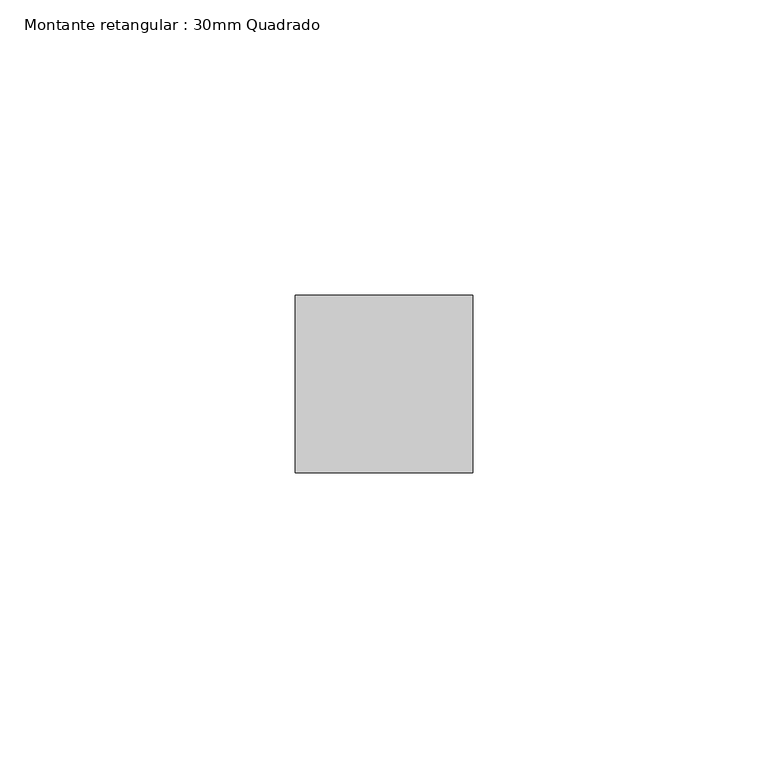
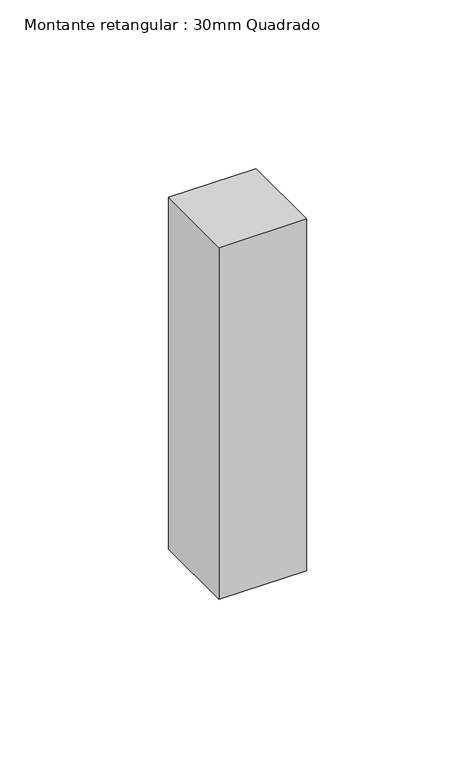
"""IFC4 building model written with IfcOpenShell, lengths in millimetres: member geometry, Montante retangular : 30mm Quadrado."""

from ifc_helpers import new_model, si_unit, frame, origin, place, context, project, spatial, polyline, outline, extrude, source, transform, mapped, element, save


def montante_retangular_30mm_quadrado_ac79c377(model_context):
    return source(origin(), model_context, "Body", "SweptSolid", [
        extrude(outline(polyline([(0.0, 15.0), (0.0, -15.0), (-30.0, -15.0), (-30.0, 15.0), (0.0, 15.0)])), frame((0.0, 0.0, -127.4309144), z_axis=(0.0, 0.0, 1.0), x_axis=(1.0, 0.0, 0.0)), (0.0, 0.0, 1.0), 127.4309144),
    ])


if __name__ == "__main__":
    model = new_model("IFC4")
    model_context = context("Model", 3, world=origin())
    ifc_project = project(units=[si_unit("LENGTHUNIT", "METRE", prefix="MILLI")], contexts=[model_context])
    site = spatial("IfcSite", under=ifc_project)
    building = spatial("IfcBuilding", under=site)
    placement = place(None, origin())
    montante_retangular_30mm_quadrado_shape = montante_retangular_30mm_quadrado_ac79c377(model_context)
    element("IfcMember", 1, ObjectType="Montante retangular : 30mm Quadrado", at=placement, inside=building, context=model_context, shape_type="MappedRepresentation", body=[
        mapped(montante_retangular_30mm_quadrado_shape, transform((0.0, 0.0, 0.0), x_axis=(1.0, 0.0, 0.0), y_axis=(0.0, 1.0, 0.0), z_axis=(0.0, 0.0, 1.0))),
    ])
    save(model, "model.ifc")
